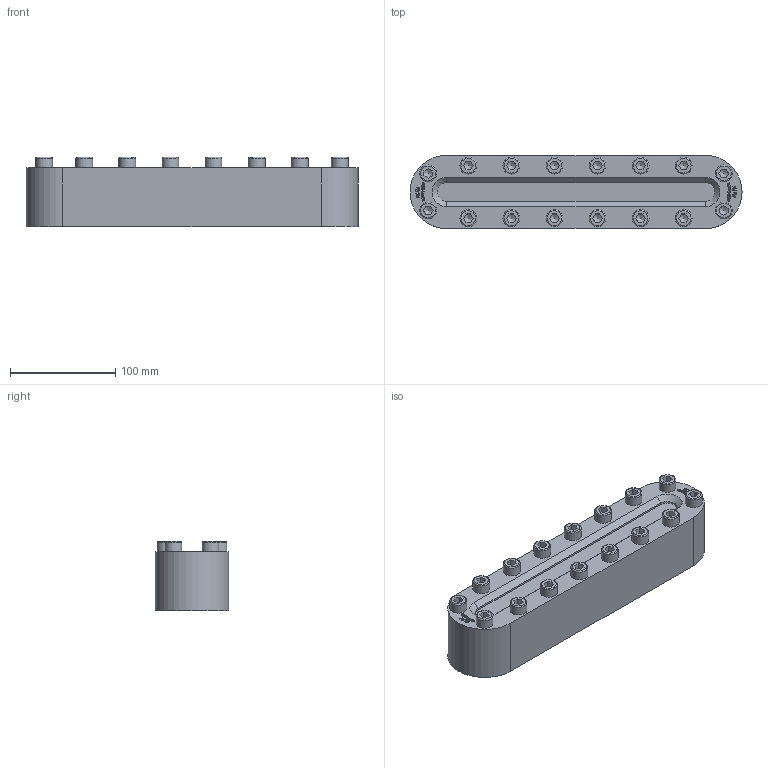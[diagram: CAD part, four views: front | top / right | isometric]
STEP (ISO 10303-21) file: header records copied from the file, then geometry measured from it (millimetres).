
FILE_DESCRIPTION(/* description */ (''),/* implementation_level */ '2;1');
FILE_NAME(/* name */ 'W:\Konstruktion_ACI\337\STEP\ACI-337-316-25.stp',/* time_stamp */ '2022-03-21T17:16:29+01:00',/* author */ ('Travnicek'),/* organization */ ('ACI Industriearmaturen'),/* preprocessor_version */ 'ST-DEVELOPER v16.1',/* originating_system */ 'Autodesk Inventor 2016',/* authorisation */ '');
FILE_SCHEMA (('AUTOMOTIVE_DESIGN { 1 0 10303 214 3 1 1 }'));
Length unit declared in the file: centimetre
Products named in the file (1): 337
Bounding box: 316 x 70 x 65.9 mm (x, y, z)
Volume: 1072895.4 mm3; surface area: 105613.5 mm2
Topology: 1 solids, 1 shells, 600 faces, 1596 edges, 1052 vertices
Faces by surface type: plane 338, bspline 206, cylinder 22, cone 18, torus 16
Full cylindrical faces by diameter (mm): 16 x16
Entity records: 19639 total; most frequent: CARTESIAN_POINT 6039, ORIENTED_EDGE 3064, DIRECTION 1876, EDGE_CURVE 1532, VERTEX_POINT 1036, LINE 962, VECTOR 962, EDGE_LOOP 702
